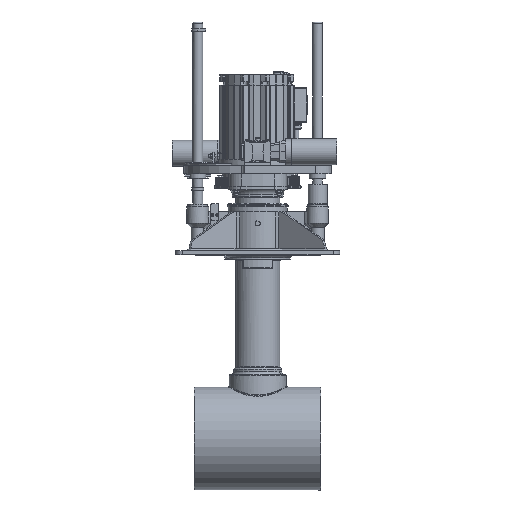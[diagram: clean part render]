
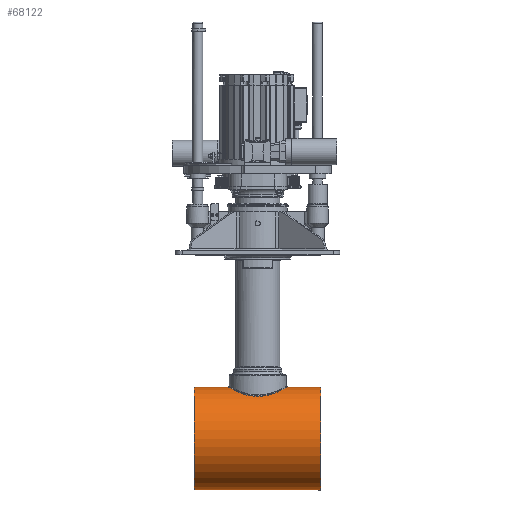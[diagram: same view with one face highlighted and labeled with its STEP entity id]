
A CAD part, front view. The second image highlights one B-rep face of the part: STEP entity #68122.
In plain terms, the highlighted cylindrical face has radius 156.7 mm (diameter 313.4 mm), a full revolution.
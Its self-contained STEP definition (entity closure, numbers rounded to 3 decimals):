
#204=FACE_BOUND('',#9410,.T.);
#3644=B_SPLINE_CURVE_WITH_KNOTS('',3,(#105478,#105479,#105480,#105481,#105482,
#105483,#105484,#105485,#105486,#105487,#105488,#105489,#105490,#105491,
#105492,#105493,#105494,#105495),.UNSPECIFIED.,.F.,.F.,(4,2,2,2,2,2,2,2,
4),(0.,0.959,1.918,2.876,3.835,
4.793,5.752,6.71,7.669),
 .UNSPECIFIED.);
#3645=B_SPLINE_CURVE_WITH_KNOTS('',3,(#105496,#105497,#105498,#105499,#105500,
#105501,#105502,#105503,#105504,#105505,#105506,#105507,#105508,#105509,
#105510,#105511,#105512,#105513,#105514,#105515,#105516,#105517,#105518,
#105519,#105520,#105521,#105522,#105523,#105524,#105525,#105526,#105527,
#105528,#105529,#105530,#105531,#105532,#105533,#105534,#105535,#105536,
#105537,#105538,#105539,#105540,#105541,#105542,#105543,#105544,#105545),
 .UNSPECIFIED.,.F.,.F.,(4,2,2,2,2,2,2,2,2,2,2,2,2,2,2,2,2,2,2,2,2,2,2,2,
4),(7.669,8.627,9.585,10.544,
11.502,12.461,13.42,14.378,15.337,
16.296,17.255,18.213,19.172,20.131,
21.089,22.047,23.006,23.964,24.922,
25.881,26.839,27.798,28.757,29.716,
30.674),.UNSPECIFIED.);
#4025=CYLINDRICAL_SURFACE('',#72282,156.7);
#5574=FACE_OUTER_BOUND('',#9409,.T.);
#9409=EDGE_LOOP('',(#45826,#45827,#45828,#45829));
#9410=EDGE_LOOP('',(#45830,#45831));
#13510=LINE('',#105475,#18962);
#18962=VECTOR('',#80567,156.7);
#24338=CIRCLE('',#72270,156.7);
#24339=CIRCLE('',#72272,156.7);
#27987=VERTEX_POINT('',#105453);
#27988=VERTEX_POINT('',#105456);
#27993=VERTEX_POINT('',#105476);
#27994=VERTEX_POINT('',#105477);
#34777=EDGE_CURVE('',#27987,#27987,#24338,.T.);
#34778=EDGE_CURVE('',#27988,#27988,#24339,.T.);
#34787=EDGE_CURVE('',#27987,#27988,#13510,.T.);
#34788=EDGE_CURVE('',#27993,#27994,#3644,.T.);
#34789=EDGE_CURVE('',#27994,#27993,#3645,.T.);
#45826=ORIENTED_EDGE('',*,*,#34777,.T.);
#45827=ORIENTED_EDGE('',*,*,#34787,.T.);
#45828=ORIENTED_EDGE('',*,*,#34778,.T.);
#45829=ORIENTED_EDGE('',*,*,#34787,.F.);
#45830=ORIENTED_EDGE('',*,*,#34788,.T.);
#45831=ORIENTED_EDGE('',*,*,#34789,.T.);
#68122=ADVANCED_FACE('',(#5574,#204),#4025,.T.);
#72270=AXIS2_PLACEMENT_3D('',#105454,#80538,#80539);
#72272=AXIS2_PLACEMENT_3D('',#105457,#80542,#80543);
#72282=AXIS2_PLACEMENT_3D('',#105474,#80565,#80566);
#80538=DIRECTION('center_axis',(1.,0.,0.));
#80539=DIRECTION('ref_axis',(0.,0.,
1.));
#80542=DIRECTION('center_axis',(-1.,0.,0.));
#80543=DIRECTION('ref_axis',(0.,0.,
1.));
#80565=DIRECTION('center_axis',(-1.,0.,0.));
#80566=DIRECTION('ref_axis',(0.,0.,
1.));
#80567=DIRECTION('',(1.,0.,0.));
#105453=CARTESIAN_POINT('',(-192.5,0.,-713.727));
#105454=CARTESIAN_POINT('Origin',(-192.5,0.,
-557.027));
#105456=CARTESIAN_POINT('',(192.5,0.,-713.727));
#105457=CARTESIAN_POINT('Origin',(192.5,0.,
-557.027));
#105474=CARTESIAN_POINT('Origin',(0.,0.,
-557.027));
#105475=CARTESIAN_POINT('',(0.,0.,
-713.727));
#105476=CARTESIAN_POINT('',(0.,50.5,-408.687));
#105477=CARTESIAN_POINT('',(50.5,0.,-400.327));
#105478=CARTESIAN_POINT('Ctrl Pts',(0.,50.5,-408.687));
#105479=CARTESIAN_POINT('Ctrl Pts',(3.196,50.5,-408.687));
#105480=CARTESIAN_POINT('Ctrl Pts',(6.493,50.192,-408.581));
#105481=CARTESIAN_POINT('Ctrl Pts',(13.036,48.902,-408.151));
#105482=CARTESIAN_POINT('Ctrl Pts',(16.282,47.921,-407.828));
#105483=CARTESIAN_POINT('Ctrl Pts',(22.496,45.338,-407.023));
#105484=CARTESIAN_POINT('Ctrl Pts',(25.468,43.733,-406.541));
#105485=CARTESIAN_POINT('Ctrl Pts',(30.96,40.034,-405.515));
#105486=CARTESIAN_POINT('Ctrl Pts',(33.479,37.938,-404.972));
#105487=CARTESIAN_POINT('Ctrl Pts',(37.938,33.48,-403.928));
#105488=CARTESIAN_POINT('Ctrl Pts',(40.033,30.961,-403.391));
#105489=CARTESIAN_POINT('Ctrl Pts',(43.732,25.469,-402.385));
#105490=CARTESIAN_POINT('Ctrl Pts',(45.338,22.496,-401.918));
#105491=CARTESIAN_POINT('Ctrl Pts',(47.922,16.281,-401.144));
#105492=CARTESIAN_POINT('Ctrl Pts',(48.903,13.034,-400.836));
#105493=CARTESIAN_POINT('Ctrl Pts',(50.192,6.491,-400.427));
#105494=CARTESIAN_POINT('Ctrl Pts',(50.5,3.195,-400.327));
#105495=CARTESIAN_POINT('Ctrl Pts',(50.5,0.,
-400.327));
#105496=CARTESIAN_POINT('Ctrl Pts',(50.5,0.,
-400.327));
#105497=CARTESIAN_POINT('Ctrl Pts',(50.5,-3.195,
-400.327));
#105498=CARTESIAN_POINT('Ctrl Pts',(50.192,-6.491,
-400.427));
#105499=CARTESIAN_POINT('Ctrl Pts',(48.903,-13.034,
-400.836));
#105500=CARTESIAN_POINT('Ctrl Pts',(47.922,-16.281,
-401.144));
#105501=CARTESIAN_POINT('Ctrl Pts',(45.338,-22.496,-401.918));
#105502=CARTESIAN_POINT('Ctrl Pts',(43.732,-25.469,-402.385));
#105503=CARTESIAN_POINT('Ctrl Pts',(40.033,-30.961,-403.391));
#105504=CARTESIAN_POINT('Ctrl Pts',(37.938,-33.48,
-403.928));
#105505=CARTESIAN_POINT('Ctrl Pts',(33.479,-37.938,
-404.972));
#105506=CARTESIAN_POINT('Ctrl Pts',(30.96,-40.034,-405.515));
#105507=CARTESIAN_POINT('Ctrl Pts',(25.468,-43.733,
-406.541));
#105508=CARTESIAN_POINT('Ctrl Pts',(22.496,-45.338,
-407.023));
#105509=CARTESIAN_POINT('Ctrl Pts',(16.282,-47.921,
-407.828));
#105510=CARTESIAN_POINT('Ctrl Pts',(13.036,-48.902,
-408.151));
#105511=CARTESIAN_POINT('Ctrl Pts',(6.493,-50.192,
-408.581));
#105512=CARTESIAN_POINT('Ctrl Pts',(3.196,-50.5,-408.687));
#105513=CARTESIAN_POINT('Ctrl Pts',(-3.196,-50.5,-408.687));
#105514=CARTESIAN_POINT('Ctrl Pts',(-6.493,-50.192,
-408.581));
#105515=CARTESIAN_POINT('Ctrl Pts',(-13.036,-48.902,
-408.151));
#105516=CARTESIAN_POINT('Ctrl Pts',(-16.282,-47.921,-407.828));
#105517=CARTESIAN_POINT('Ctrl Pts',(-22.496,-45.338,
-407.023));
#105518=CARTESIAN_POINT('Ctrl Pts',(-25.468,-43.733,
-406.541));
#105519=CARTESIAN_POINT('Ctrl Pts',(-30.96,-40.034,
-405.515));
#105520=CARTESIAN_POINT('Ctrl Pts',(-33.479,-37.938,
-404.972));
#105521=CARTESIAN_POINT('Ctrl Pts',(-37.938,-33.48,
-403.928));
#105522=CARTESIAN_POINT('Ctrl Pts',(-40.033,-30.961,
-403.391));
#105523=CARTESIAN_POINT('Ctrl Pts',(-43.732,-25.469,
-402.385));
#105524=CARTESIAN_POINT('Ctrl Pts',(-45.338,-22.496,
-401.918));
#105525=CARTESIAN_POINT('Ctrl Pts',(-47.922,-16.281,
-401.144));
#105526=CARTESIAN_POINT('Ctrl Pts',(-48.903,-13.034,
-400.836));
#105527=CARTESIAN_POINT('Ctrl Pts',(-50.192,-6.491,
-400.427));
#105528=CARTESIAN_POINT('Ctrl Pts',(-50.5,-3.195,
-400.327));
#105529=CARTESIAN_POINT('Ctrl Pts',(-50.5,3.195,
-400.327));
#105530=CARTESIAN_POINT('Ctrl Pts',(-50.192,6.491,
-400.427));
#105531=CARTESIAN_POINT('Ctrl Pts',(-48.903,13.034,-400.836));
#105532=CARTESIAN_POINT('Ctrl Pts',(-47.922,16.281,
-401.144));
#105533=CARTESIAN_POINT('Ctrl Pts',(-45.338,22.496,
-401.918));
#105534=CARTESIAN_POINT('Ctrl Pts',(-43.732,25.469,-402.385));
#105535=CARTESIAN_POINT('Ctrl Pts',(-40.033,30.961,
-403.391));
#105536=CARTESIAN_POINT('Ctrl Pts',(-37.938,33.48,
-403.928));
#105537=CARTESIAN_POINT('Ctrl Pts',(-33.479,37.938,
-404.972));
#105538=CARTESIAN_POINT('Ctrl Pts',(-30.96,40.034,
-405.515));
#105539=CARTESIAN_POINT('Ctrl Pts',(-25.468,43.733,
-406.541));
#105540=CARTESIAN_POINT('Ctrl Pts',(-22.496,45.338,
-407.023));
#105541=CARTESIAN_POINT('Ctrl Pts',(-16.282,47.921,
-407.828));
#105542=CARTESIAN_POINT('Ctrl Pts',(-13.036,48.902,-408.151));
#105543=CARTESIAN_POINT('Ctrl Pts',(-6.493,50.192,
-408.581));
#105544=CARTESIAN_POINT('Ctrl Pts',(-3.196,50.5,-408.687));
#105545=CARTESIAN_POINT('Ctrl Pts',(0.,50.5,-408.687));
